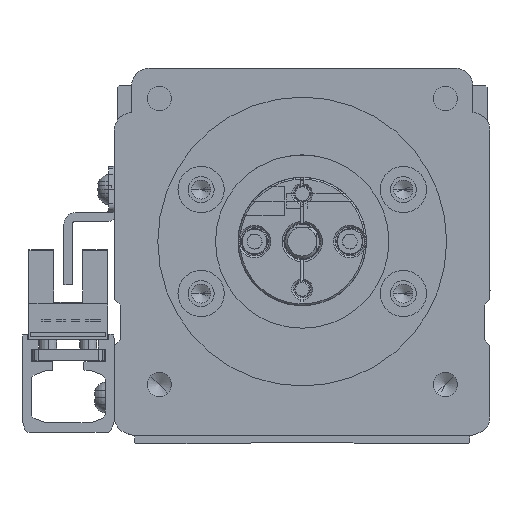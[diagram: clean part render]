
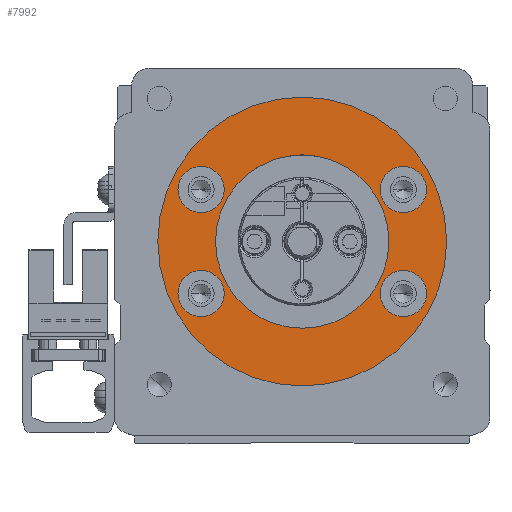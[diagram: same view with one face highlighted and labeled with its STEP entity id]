
A CAD part, front view. The second image highlights one B-rep face of the part: STEP entity #7992.
In plain terms, the highlighted planar face has unit normal (0, -1, 0).
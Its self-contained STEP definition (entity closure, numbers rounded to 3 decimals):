
#7992=ADVANCED_FACE('',(#16554,#16555,#16556,#16557,#16558,#16559),#16560,.F.);
#16554=FACE_BOUND('',#27055,.T.);
#16555=FACE_BOUND('',#27056,.T.);
#16556=FACE_BOUND('',#27057,.T.);
#16557=FACE_BOUND('',#27058,.T.);
#16558=FACE_BOUND('',#27059,.T.);
#16559=FACE_OUTER_BOUND('',#27060,.T.);
#16560=PLANE('',#27061);
#27055=EDGE_LOOP('',(#49162,#49163));
#27056=EDGE_LOOP('',(#49164,#49165));
#27057=EDGE_LOOP('',(#49166,#49167));
#27058=EDGE_LOOP('',(#49168,#49169));
#27059=EDGE_LOOP('',(#49170,#49171));
#27060=EDGE_LOOP('',(#49172,#49173));
#27061=AXIS2_PLACEMENT_3D('',#49174,#49175,#49176);
#49162=ORIENTED_EDGE('',*,*,#57303,.T.);
#49163=ORIENTED_EDGE('',*,*,#64061,.T.);
#49164=ORIENTED_EDGE('',*,*,#58686,.T.);
#49165=ORIENTED_EDGE('',*,*,#64796,.T.);
#49166=ORIENTED_EDGE('',*,*,#63524,.T.);
#49167=ORIENTED_EDGE('',*,*,#65456,.T.);
#49168=ORIENTED_EDGE('',*,*,#58790,.T.);
#49169=ORIENTED_EDGE('',*,*,#60621,.T.);
#49170=ORIENTED_EDGE('',*,*,#65457,.T.);
#49171=ORIENTED_EDGE('',*,*,#65458,.T.);
#49172=ORIENTED_EDGE('',*,*,#64853,.T.);
#49173=ORIENTED_EDGE('',*,*,#58463,.T.);
#49174=CARTESIAN_POINT('',(300.,-110.0,0.));
#49175=DIRECTION('',(0.,1.0,0.));
#49176=DIRECTION('',(1.0,0.,0.));
#57303=EDGE_CURVE('',#68483,#68481,#68484,.T.);
#58463=EDGE_CURVE('',#70521,#70518,#70522,.T.);
#58686=EDGE_CURVE('',#70909,#70907,#70910,.T.);
#58790=EDGE_CURVE('',#71083,#71081,#71084,.T.);
#60621=EDGE_CURVE('',#71081,#71083,#74063,.T.);
#63524=EDGE_CURVE('',#78293,#78291,#78294,.T.);
#64061=EDGE_CURVE('',#68481,#68483,#78991,.T.);
#64796=EDGE_CURVE('',#70907,#70909,#79926,.T.);
#64853=EDGE_CURVE('',#70518,#70521,#79993,.T.);
#65456=EDGE_CURVE('',#78291,#78293,#80708,.T.);
#65457=EDGE_CURVE('',#80709,#80710,#80711,.T.);
#65458=EDGE_CURVE('',#80710,#80709,#80712,.T.);
#68481=VERTEX_POINT('',#84462);
#68483=VERTEX_POINT('',#84465);
#68484=CIRCLE('',#84466,4.0);
#70518=VERTEX_POINT('',#87297);
#70521=VERTEX_POINT('',#87301);
#70522=CIRCLE('',#87302,25.0);
#70907=VERTEX_POINT('',#87868);
#70909=VERTEX_POINT('',#87871);
#70910=CIRCLE('',#87872,4.0);
#71081=VERTEX_POINT('',#88107);
#71083=VERTEX_POINT('',#88110);
#71084=CIRCLE('',#88111,4.0);
#74063=CIRCLE('',#92628,4.0);
#78291=VERTEX_POINT('',#98668);
#78293=VERTEX_POINT('',#98671);
#78294=CIRCLE('',#98672,4.0);
#78991=CIRCLE('',#99655,4.0);
#79926=CIRCLE('',#100995,4.0);
#79993=CIRCLE('',#101107,25.0);
#80708=CIRCLE('',#102137,4.0);
#80709=VERTEX_POINT('',#102138);
#80710=VERTEX_POINT('',#102139);
#80711=CIRCLE('',#102140,15.0);
#80712=CIRCLE('',#102141,15.0);
#84462=CARTESIAN_POINT('',(278.5,-110.0,-9.));
#84465=CARTESIAN_POINT('',(286.5,-110.0,-9.));
#84466=AXIS2_PLACEMENT_3D('',#105305,#105306,#105307);
#87297=CARTESIAN_POINT('',(325.,-110.0,0.));
#87301=CARTESIAN_POINT('',(275.,-110.0,0.));
#87302=AXIS2_PLACEMENT_3D('',#106831,#106832,#106833);
#87868=CARTESIAN_POINT('',(313.5,-110.0,-9.));
#87871=CARTESIAN_POINT('',(321.5,-110.0,-9.));
#87872=AXIS2_PLACEMENT_3D('',#107125,#107126,#107127);
#88107=CARTESIAN_POINT('',(313.5,-110.0,9.));
#88110=CARTESIAN_POINT('',(321.5,-110.0,9.));
#88111=AXIS2_PLACEMENT_3D('',#107264,#107265,#107266);
#92628=AXIS2_PLACEMENT_3D('',#109652,#109653,#109654);
#98668=CARTESIAN_POINT('',(278.5,-110.0,9.));
#98671=CARTESIAN_POINT('',(286.5,-110.0,9.));
#98672=AXIS2_PLACEMENT_3D('',#113344,#113345,#113346);
#99655=AXIS2_PLACEMENT_3D('',#113938,#113939,#113940);
#100995=AXIS2_PLACEMENT_3D('',#114783,#114784,#114785);
#101107=AXIS2_PLACEMENT_3D('',#114845,#114846,#114847);
#102137=AXIS2_PLACEMENT_3D('',#115441,#115442,#115443);
#102138=CARTESIAN_POINT('',(285.,-110.0,0.));
#102139=CARTESIAN_POINT('',(315.,-110.0,0.));
#102140=AXIS2_PLACEMENT_3D('',#115444,#115445,#115446);
#102141=AXIS2_PLACEMENT_3D('',#115447,#115448,#115449);
#105305=CARTESIAN_POINT('',(282.5,-110.0,-9.));
#105306=DIRECTION('',(0.,1.0,0.));
#105307=DIRECTION('',(-1.0,0.,0.));
#106831=CARTESIAN_POINT('',(300.,-110.0,0.));
#106832=DIRECTION('',(0.,-1.0,0.));
#106833=DIRECTION('',(1.0,0.,0.));
#107125=CARTESIAN_POINT('',(317.5,-110.0,-9.));
#107126=DIRECTION('',(0.,1.0,0.));
#107127=DIRECTION('',(-1.0,0.,0.));
#107264=CARTESIAN_POINT('',(317.5,-110.0,9.));
#107265=DIRECTION('',(0.,1.0,0.));
#107266=DIRECTION('',(-1.0,0.,0.));
#109652=CARTESIAN_POINT('',(317.5,-110.0,9.));
#109653=DIRECTION('',(0.,1.0,0.));
#109654=DIRECTION('',(-1.0,0.,0.));
#113344=CARTESIAN_POINT('',(282.5,-110.0,9.));
#113345=DIRECTION('',(0.,1.0,0.));
#113346=DIRECTION('',(-1.0,0.,0.));
#113938=CARTESIAN_POINT('',(282.5,-110.0,-9.));
#113939=DIRECTION('',(0.,1.0,0.));
#113940=DIRECTION('',(-1.0,0.,0.));
#114783=CARTESIAN_POINT('',(317.5,-110.0,-9.));
#114784=DIRECTION('',(0.,1.0,0.));
#114785=DIRECTION('',(-1.0,0.,0.));
#114845=CARTESIAN_POINT('',(300.,-110.0,0.));
#114846=DIRECTION('',(0.,-1.0,0.));
#114847=DIRECTION('',(1.0,0.,0.));
#115441=CARTESIAN_POINT('',(282.5,-110.0,9.));
#115442=DIRECTION('',(0.,1.0,0.));
#115443=DIRECTION('',(-1.0,0.,0.));
#115444=CARTESIAN_POINT('',(300.,-110.0,0.));
#115445=DIRECTION('',(0.,1.0,0.));
#115446=DIRECTION('',(1.0,0.,0.));
#115447=CARTESIAN_POINT('',(300.,-110.0,0.));
#115448=DIRECTION('',(0.,1.0,0.));
#115449=DIRECTION('',(1.0,0.,0.));
